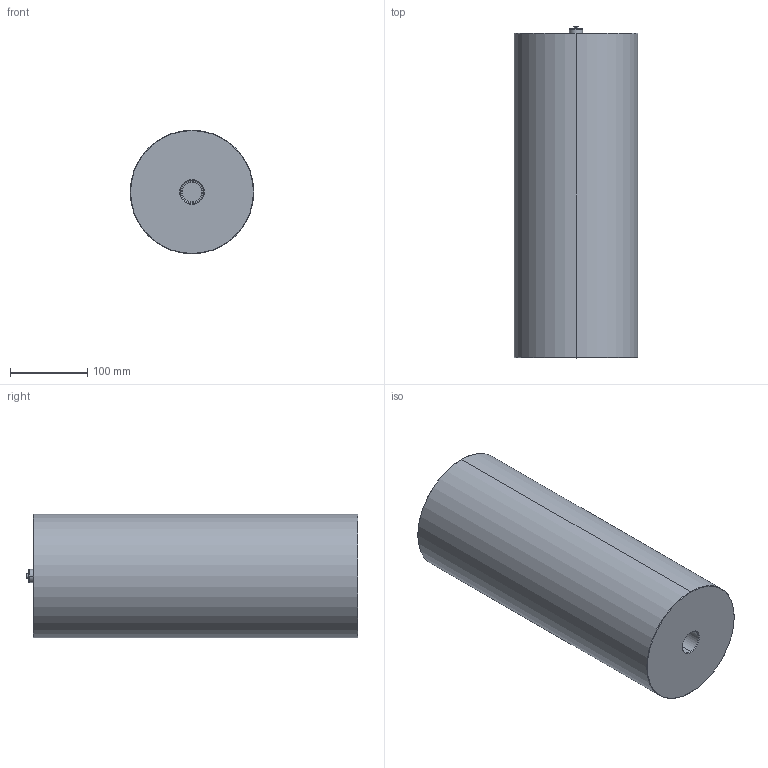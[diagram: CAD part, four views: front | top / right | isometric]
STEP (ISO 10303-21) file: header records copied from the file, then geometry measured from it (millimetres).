
FILE_DESCRIPTION (( 'STEP AP214' ), '1' );
FILE_NAME ('U040A01X1-PC.STEP', '2025-04-10T10:37:05', ( '' ), ( '' ), 'SwSTEP 2.0', 'SolidWorks 2024', '' );
FILE_SCHEMA (( 'AUTOMOTIVE_DESIGN' ));
Length unit declared in the file: millimetre
Products named in the file (1): U040A01X1-PC
Bounding box: 160 x 429.48 x 160 mm (x, y, z)
Volume: 8230430.7 mm3; surface area: 275898.2 mm2
Topology: 3 solids, 3 shells, 161 faces, 363 edges, 218 vertices
Faces by surface type: cylinder 50, plane 45, torus 34, cone 32
Entity records: 6426 total; most frequent: CARTESIAN_POINT 975, DIRECTION 840, ORIENTED_EDGE 726, EDGE_CURVE 363, AXIS2_PLACEMENT_3D 351, VERTEX_POINT 218, CIRCLE 189, EDGE_LOOP 179
